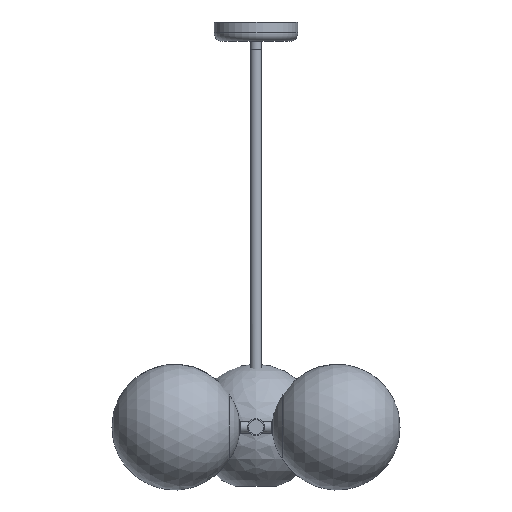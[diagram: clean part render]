
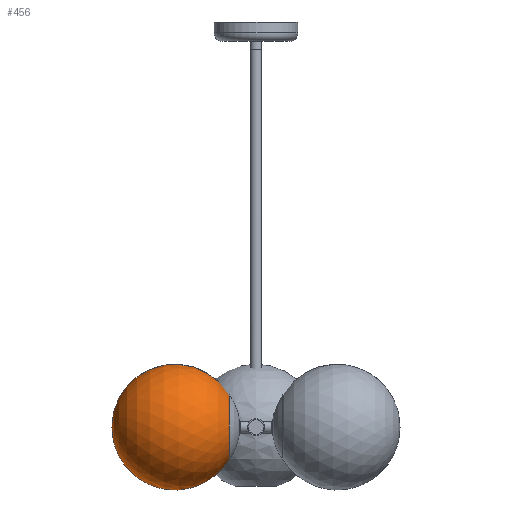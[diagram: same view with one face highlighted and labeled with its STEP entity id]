
A CAD part, left-side view. The second image highlights one B-rep face of the part: STEP entity #456.
In plain terms, the highlighted spherical face has radius 75 mm.
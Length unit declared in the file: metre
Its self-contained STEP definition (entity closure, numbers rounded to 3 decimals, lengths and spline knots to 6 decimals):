
#456 = ADVANCED_FACE( '', ( #620 ), #621, .T. );
#620 = FACE_OUTER_BOUND( '', #823, .T. );
#621 = SPHERICAL_SURFACE( '', #824, 0.075 );
#823 = EDGE_LOOP( '', ( #1120 ) );
#824 = AXIS2_PLACEMENT_3D( '', #1121, #1122, #1123 );
#1120 = ORIENTED_EDGE( '', *, *, #1263, .F. );
#1121 = CARTESIAN_POINT( '', ( 0., 0., 0. ) );
#1122 = DIRECTION( '', ( 0., 0., -1. ) );
#1123 = DIRECTION( '', ( -1., 0., 0. ) );
#1263 = EDGE_CURVE( '', #1381, #1381, #1382, .T. );
#1381 = VERTEX_POINT( '', #2593 );
#1382 = CIRCLE( '', #2594, 0.025 );
#2593 = CARTESIAN_POINT( '', ( -0.025, 0., -0.070711 ) );
#2594 = AXIS2_PLACEMENT_3D( '', #2964, #2965, #2966 );
#2964 = CARTESIAN_POINT( '', ( 0., 0., -0.070711 ) );
#2965 = DIRECTION( '', ( 0., 0., -1. ) );
#2966 = DIRECTION( '', ( -1., 0., 0. ) );
